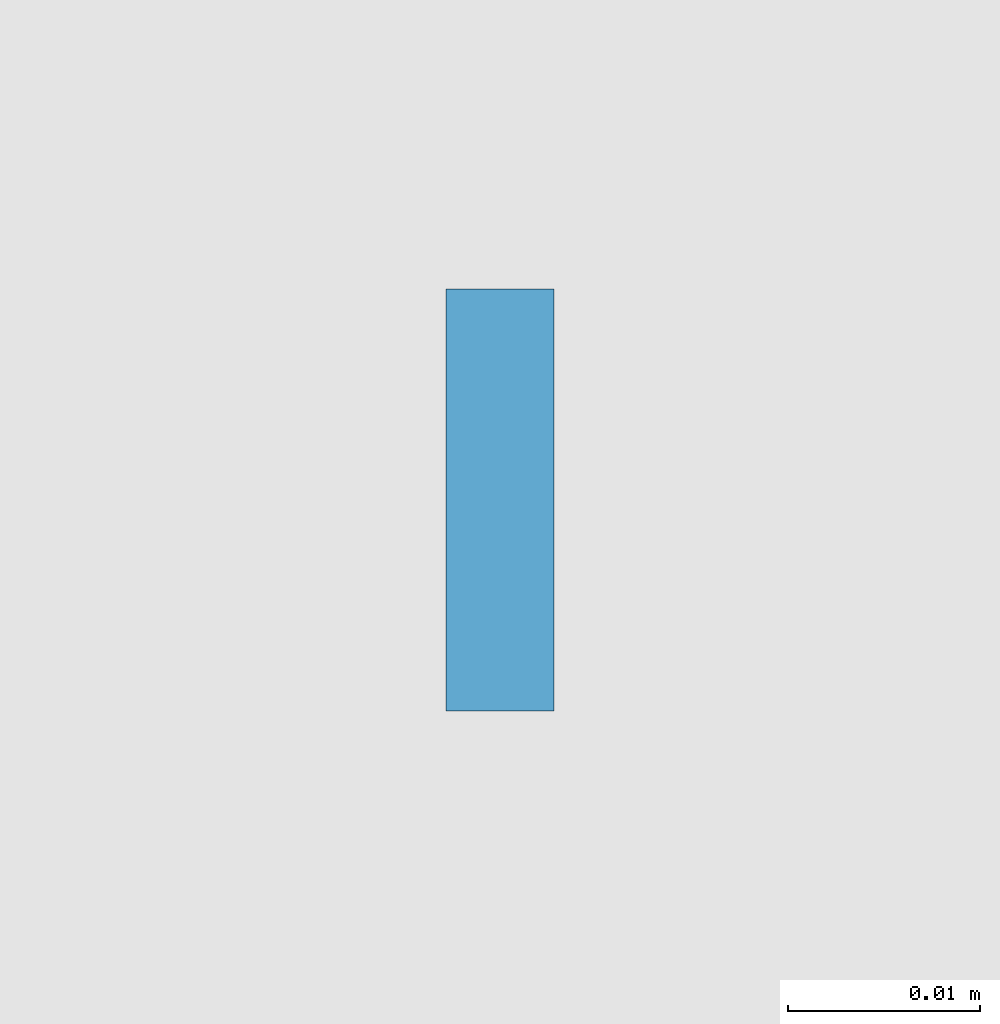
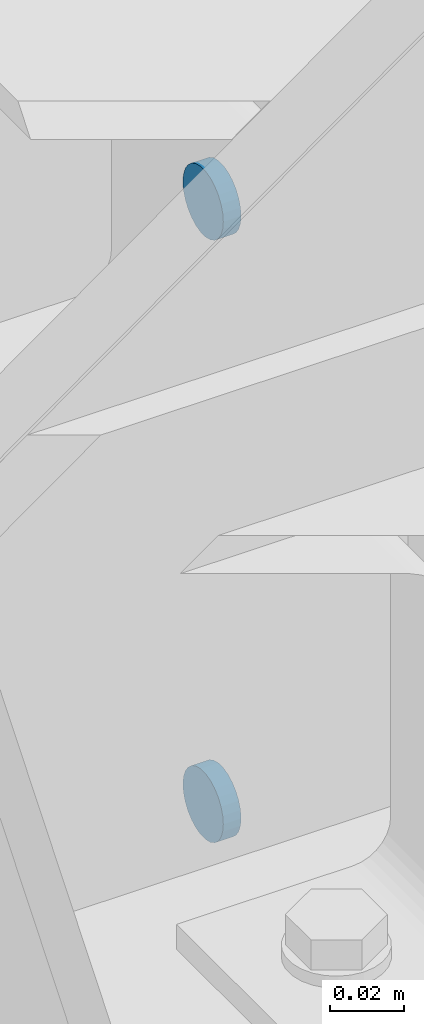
# One storey, part 112 of 123: 2 mechanical fasteners, 1 element without a shape of its own.
"""IFC2X3 building model written with IfcOpenShell, lengths in millimetres."""

from ifc_helpers import new_model, si_unit, frame, origin_with_axes, origin_2d_with_axis, place, context, subcontext, project, spatial, circle, extrude, source, transform, mapped, material, type_object, element, aggregate, save


model = new_model("IFC2X3")

# Units and contexts
model_context = context("Model", 3, precision=1e-05, world=origin_with_axes())
body_context = subcontext(model_context, "Body", "Model", "MODEL_VIEW")
ifc_project = project(units=[si_unit("LENGTHUNIT", "METRE", prefix="MILLI"), si_unit("AREAUNIT", "SQUARE_METRE"), si_unit("VOLUMEUNIT", "CUBIC_METRE"), si_unit("MASSUNIT", "GRAM", prefix="KILO"), si_unit("TIMEUNIT", "SECOND"), si_unit("PLANEANGLEUNIT", "RADIAN"), si_unit("SOLIDANGLEUNIT", "STERADIAN"), si_unit("THERMODYNAMICTEMPERATUREUNIT", "DEGREE_CELSIUS"), si_unit("LUMINOUSINTENSITYUNIT", "LUMEN")], contexts=[model_context])

# Site, building, storey
site_placement = place(None, origin_with_axes())
site = spatial("IfcSite", under=ifc_project, at=site_placement, Name="Undefined", CompositionType="ELEMENT")
building_placement = place(site_placement, origin_with_axes())
building = spatial("IfcBuilding", under=site, at=building_placement, Name="Undefined", CompositionType="ELEMENT")
storey_placement = place(building_placement, origin_with_axes())
storey = spatial("IfcBuildingStorey", under=building, at=storey_placement, Name="Undefined", CompositionType="ELEMENT", Elevation=0.0)

# Assembly, mechanical fasteners
assembly_placement = place(storey_placement, origin_with_axes())
assembly = element("IfcElementAssembly", 1, at=assembly_placement, inside=storey, Name="Steel Assembly", AssemblyPlace="NOTDEFINED", PredefinedType="RIGID_FRAME")
ifc_material = material(Name="6.8")
discrete_accessory_type = type_object("IfcDiscreteAccessoryType", Name="Bolt assembly")
shared_shape = source(origin_with_axes(), body_context, "Body", "SweptSolid", [
    extrude(circle(Radius=11.0, at=origin_2d_with_axis()), frame((0.0, -2.75000000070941, 0.0), z_axis=(0.0, 1.0, 0.0), x_axis=(1.0, 0.0, 0.0)), (0.0, 0.0, 1.0), 5.6),
])
mechanical_fastener_1_placement = place(assembly_placement, frame((34280.0000000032, 15452.0000000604, 7079.99830350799), z_axis=(0.0, 0.0, 1.0), x_axis=(0.0, -1.0, 0.0)))
mechanical_fastener_1 = element("IfcMechanicalFastener", 2, at=mechanical_fastener_1_placement, type_object=discrete_accessory_type, material=ifc_material, Name="Bolt assembly", NominalDiameter=20.0, NominalLength=5.5, context=body_context, shape_type="MappedRepresentation", body=[
    mapped(shared_shape, transform((0.0, 0.0, 0.0))),
])
mechanical_fastener_2_placement = place(assembly_placement, frame((34280.0000000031, 15452.0000000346, 7279.99830350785), z_axis=(0.0, 0.0, 1.0), x_axis=(0.0, -1.0, 0.0)))
mechanical_fastener_2 = element("IfcMechanicalFastener", 3, at=mechanical_fastener_2_placement, type_object=discrete_accessory_type, material=ifc_material, Name="Bolt assembly", NominalDiameter=20.0, NominalLength=5.5, context=body_context, shape_type="MappedRepresentation", body=[
    mapped(shared_shape, transform((0.0, 0.0, 0.0))),
])
aggregate(assembly, [mechanical_fastener_1, mechanical_fastener_2])

save(model, "model.ifc")
